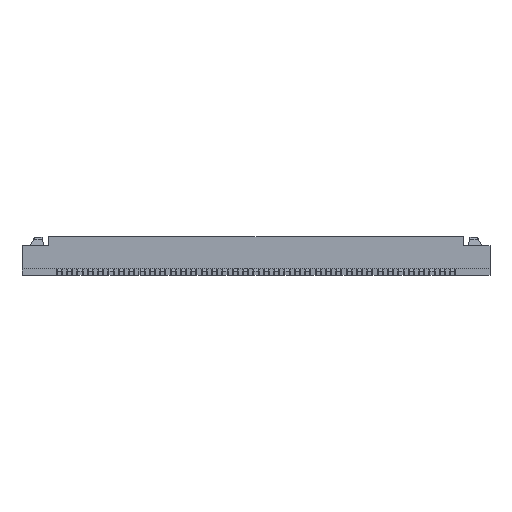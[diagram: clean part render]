
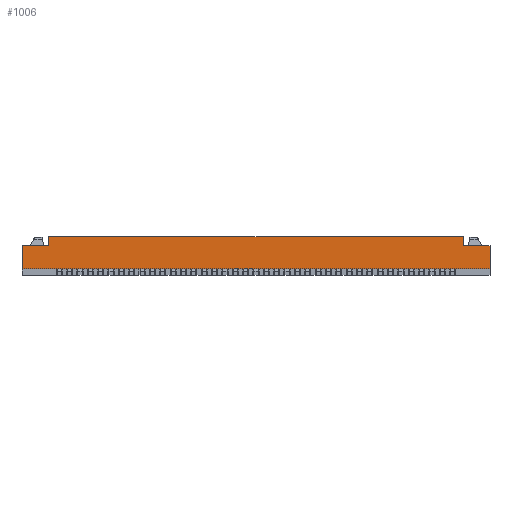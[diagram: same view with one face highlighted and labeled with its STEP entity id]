
A CAD part, front view. The second image highlights one B-rep face of the part: STEP entity #1006.
In plain terms, the highlighted planar face has unit normal (0, -1, 0).
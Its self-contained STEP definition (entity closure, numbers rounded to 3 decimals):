
#399=CARTESIAN_POINT('Vertex',(-10.,-2.4,1.42)) ;
#402=CARTESIAN_POINT('Line Origine',(-10.,-2.4,1.635)) ;
#406=CARTESIAN_POINT('Vertex',(-10.,-2.4,1.85)) ;
#944=CARTESIAN_POINT('Axis2P3D Location',(0.,-2.4,0.3)) ;
#949=CARTESIAN_POINT('Line Origine',(-10.65,-2.4,1.42)) ;
#953=CARTESIAN_POINT('Vertex',(-11.3,-2.4,1.42)) ;
#956=CARTESIAN_POINT('Line Origine',(-11.3,-2.4,0.86)) ;
#960=CARTESIAN_POINT('Vertex',(-11.3,-2.4,0.3)) ;
#963=CARTESIAN_POINT('Line Origine',(0.,-2.4,0.3)) ;
#967=CARTESIAN_POINT('Vertex',(11.3,-2.4,0.3)) ;
#970=CARTESIAN_POINT('Line Origine',(11.3,-2.4,0.86)) ;
#974=CARTESIAN_POINT('Vertex',(11.3,-2.4,1.42)) ;
#977=CARTESIAN_POINT('Line Origine',(10.65,-2.4,1.42)) ;
#981=CARTESIAN_POINT('Vertex',(10.,-2.4,1.42)) ;
#984=CARTESIAN_POINT('Line Origine',(10.,-2.4,1.635)) ;
#988=CARTESIAN_POINT('Vertex',(10.,-2.4,1.85)) ;
#991=CARTESIAN_POINT('Line Origine',(0.,-2.4,1.85)) ;
#403=DIRECTION('Vector Direction',(0.,0.,-1.)) ;
#945=DIRECTION('Axis2P3D Direction',(0.,1.,0.)) ;
#946=DIRECTION('Axis2P3D XDirection',(0.,0.,1.)) ;
#950=DIRECTION('Vector Direction',(1.,0.,0.)) ;
#957=DIRECTION('Vector Direction',(0.,0.,1.)) ;
#964=DIRECTION('Vector Direction',(1.,0.,0.)) ;
#971=DIRECTION('Vector Direction',(0.,0.,1.)) ;
#978=DIRECTION('Vector Direction',(-1.,0.,0.)) ;
#985=DIRECTION('Vector Direction',(0.,0.,-1.)) ;
#992=DIRECTION('Vector Direction',(1.,0.,0.)) ;
#947=AXIS2_PLACEMENT_3D('Plane Axis2P3D',#944,#945,#946) ;
#997=ORIENTED_EDGE('',*,*,#408,.T.) ;
#998=ORIENTED_EDGE('',*,*,#955,.F.) ;
#999=ORIENTED_EDGE('',*,*,#962,.T.) ;
#1000=ORIENTED_EDGE('',*,*,#969,.T.) ;
#1001=ORIENTED_EDGE('',*,*,#976,.F.) ;
#1002=ORIENTED_EDGE('',*,*,#983,.T.) ;
#1003=ORIENTED_EDGE('',*,*,#990,.F.) ;
#1004=ORIENTED_EDGE('',*,*,#995,.F.) ;
#404=VECTOR('Line Direction',#403,1.) ;
#951=VECTOR('Line Direction',#950,1.) ;
#958=VECTOR('Line Direction',#957,1.) ;
#965=VECTOR('Line Direction',#964,1.) ;
#972=VECTOR('Line Direction',#971,1.) ;
#979=VECTOR('Line Direction',#978,1.) ;
#986=VECTOR('Line Direction',#985,1.) ;
#993=VECTOR('Line Direction',#992,1.) ;
#1006=ADVANCED_FACE('\X2\96F64EF651E04F554F53\X0\',(#1005),#948,.F.) ;
#408=EDGE_CURVE('',#407,#400,#405,.T.) ;
#955=EDGE_CURVE('',#954,#400,#952,.T.) ;
#962=EDGE_CURVE('',#954,#961,#959,.F.) ;
#969=EDGE_CURVE('',#961,#968,#966,.T.) ;
#976=EDGE_CURVE('',#975,#968,#973,.F.) ;
#983=EDGE_CURVE('',#975,#982,#980,.T.) ;
#990=EDGE_CURVE('',#989,#982,#987,.T.) ;
#995=EDGE_CURVE('',#407,#989,#994,.T.) ;
#996=EDGE_LOOP('',(#997,#998,#999,#1000,#1001,#1002,#1003,#1004)) ;
#1005=FACE_OUTER_BOUND('',#996,.T.) ;
#405=LINE('Line',#402,#404) ;
#952=LINE('Line',#949,#951) ;
#959=LINE('Line',#956,#958) ;
#966=LINE('Line',#963,#965) ;
#973=LINE('Line',#970,#972) ;
#980=LINE('Line',#977,#979) ;
#987=LINE('Line',#984,#986) ;
#994=LINE('Line',#991,#993) ;
#948=PLANE('Plane',#947) ;
#400=VERTEX_POINT('',#399) ;
#407=VERTEX_POINT('',#406) ;
#954=VERTEX_POINT('',#953) ;
#961=VERTEX_POINT('',#960) ;
#968=VERTEX_POINT('',#967) ;
#975=VERTEX_POINT('',#974) ;
#982=VERTEX_POINT('',#981) ;
#989=VERTEX_POINT('',#988) ;
